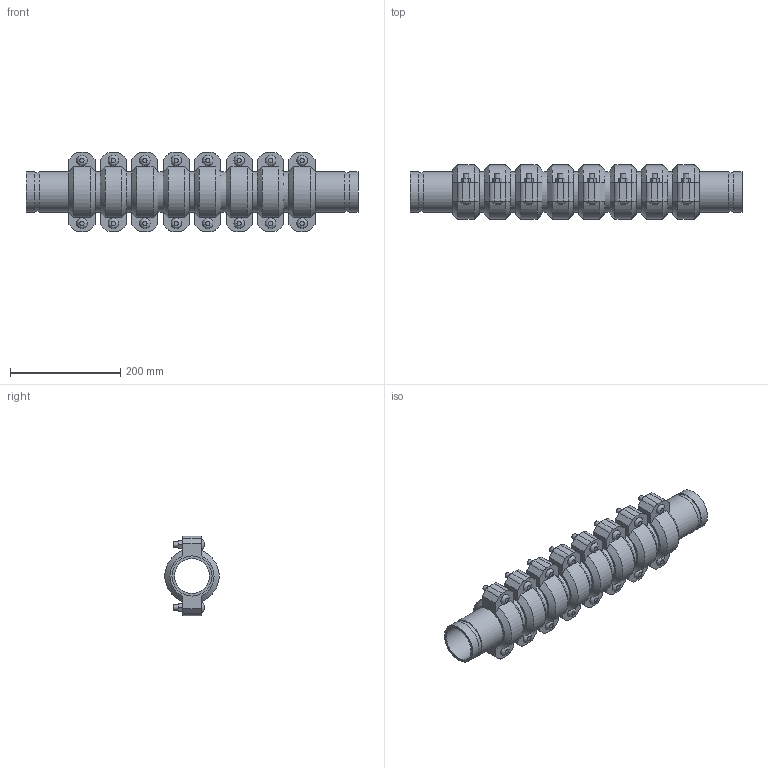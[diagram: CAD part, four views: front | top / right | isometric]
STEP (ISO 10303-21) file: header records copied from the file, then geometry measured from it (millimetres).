
FILE_DESCRIPTION(/* description */ ('VIC EXPANSION JOINT 8 COUPLINGS COMPRESSED STYLE 155 (OGS)','CAx-IF Rec.Pracs.---Representation and Presentation of Product Manufacturing Information (PMI)---4.0---2014-10-13'),/* implementation_level */ '2;1');
FILE_NAME(/* name */ 'C:\Users\kkamble\AppData\Roaming\Autodesk\ApplicationPlugins\Victaulic.Temp\A709\Victaulic_IPS_Expansion Joint_Compressed_8 Couplings_Style 155 (OGS)_2.5 (65).stp',/* time_stamp */ '2021-06-27T00:35:58+02:00',/* author */ ('kkamble'),/* organization */ ('Victaulic'),/* preprocessor_version */ 'ST-DEVELOPER v17.2',/* originating_system */ 'Autodesk Inventor 2019',/* authorisation */ '');
FILE_SCHEMA (('AP242_MANAGED_MODEL_BASED_3D_ENGINEERING_MIM_LF { 1 0 10303 442 1 1 4 }'));
Length unit declared in the file: inch
Products named in the file (4): 155-02.5; Nipple-02.5; Nipple-02.5_1; 075-02.5
Assembly tree (17 placements, depth 2):
  155-02.5
    Nipple-02.5  x2
    Nipple-02.5_1  x7
    075-02.5  x8
Bounding box: 603.25 x 98.22 x 144.27 mm (x, y, z)
Volume: 2271121.2 mm3; surface area: 632481.8 mm2
Topology: 17 solids, 33 shells, 532 faces, 1286 edges, 904 vertices
Faces by surface type: plane 326, cylinder 158, cone 32, bspline 16
Full cylindrical faces by diameter (mm): 9.525 x32, 11.43 x16, 63.475 x9, 69.088 x18, 73.025 x35
Entity records: 2755 total; most frequent: CARTESIAN_POINT 487, DIRECTION 459, ORIENTED_EDGE 374, EDGE_CURVE 187, AXIS2_PLACEMENT_3D 184, VERTEX_POINT 134, EDGE_LOOP 101, LINE 91
